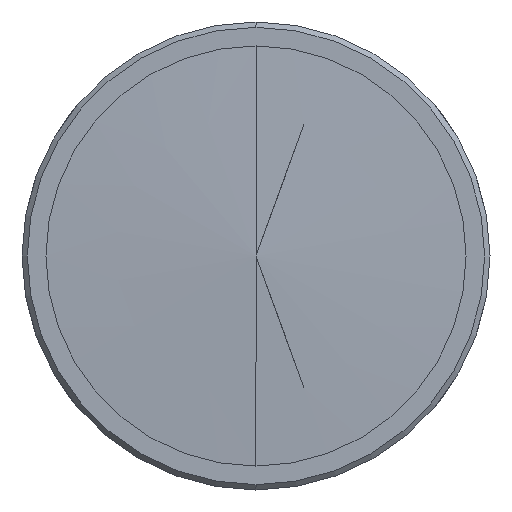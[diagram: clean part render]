
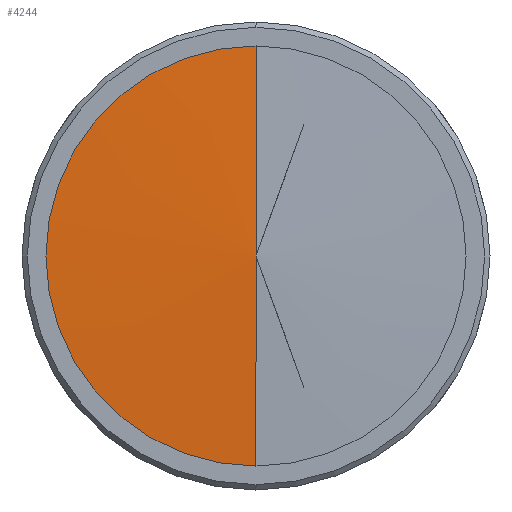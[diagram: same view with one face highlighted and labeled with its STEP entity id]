
A CAD part, left-side view. The second image highlights one B-rep face of the part: STEP entity #4244.
In plain terms, the highlighted conical face has half-angle 87.554 degrees and reference radius 20.853 mm.
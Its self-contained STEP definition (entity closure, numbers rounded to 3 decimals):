
#606 = CARTESIAN_POINT ( 'NONE',  ( 0.891, 0., -20.853 ) ) ;
#899 = CARTESIAN_POINT ( 'NONE',  ( 0.844, 0., -19.75 ) ) ;
#2204 = ORIENTED_EDGE ( 'NONE', *, *, #4152, .F. ) ;
#2458 = VERTEX_POINT ( 'NONE', #899 ) ;
#2616 = AXIS2_PLACEMENT_3D ( 'NONE', #7040, #5387, #2655 ) ;
#2655 = DIRECTION ( 'NONE',  ( 0., 0., -1. ) ) ;
#2905 = CIRCLE ( 'NONE', #2616, 19.75 ) ;
#2960 = EDGE_CURVE ( 'NONE', #3849, #5359, #5803, .T. ) ;
#3116 = CARTESIAN_POINT ( 'NONE',  ( 0.891, 0., 20.853 ) ) ;
#3694 = CARTESIAN_POINT ( 'NONE',  ( 0.844, 0., 19.75 ) ) ;
#3849 = VERTEX_POINT ( 'NONE', #4660 ) ;
#3850 = EDGE_CURVE ( 'NONE', #3849, #2458, #6389, .T. ) ;
#4152 = EDGE_CURVE ( 'NONE', #2458, #5359, #2905, .T. ) ;
#4244 = ADVANCED_FACE ( 'NONE', ( #6128 ), #5272, .T. ) ;
#4562 = EDGE_LOOP ( 'NONE', ( #5860, #6092, #2204 ) ) ;
#4660 = CARTESIAN_POINT ( 'NONE',  ( 0., 0., 0. ) ) ;
#4778 = DIRECTION ( 'NONE',  ( 0.043, 0., -0.999 ) ) ;
#5092 = AXIS2_PLACEMENT_3D ( 'NONE', #6613, #5529, #6633 ) ;
#5272 = CONICAL_SURFACE ( 'NONE', #5092, 20.853, 1.528 ) ;
#5359 = VERTEX_POINT ( 'NONE', #3694 ) ;
#5387 = DIRECTION ( 'NONE',  ( 1., 0., 0. ) ) ;
#5529 = DIRECTION ( 'NONE',  ( 1., 0., 0. ) ) ;
#5718 = VECTOR ( 'NONE', #6891, 1000. ) ;
#5803 = LINE ( 'NONE', #3116, #5718 ) ;
#5860 = ORIENTED_EDGE ( 'NONE', *, *, #3850, .F. ) ;
#5886 = VECTOR ( 'NONE', #4778, 1000. ) ;
#6092 = ORIENTED_EDGE ( 'NONE', *, *, #2960, .T. ) ;
#6128 = FACE_OUTER_BOUND ( 'NONE', #4562, .T. ) ;
#6389 = LINE ( 'NONE', #606, #5886 ) ;
#6613 = CARTESIAN_POINT ( 'NONE',  ( 0.891, 0., 0. ) ) ;
#6633 = DIRECTION ( 'NONE',  ( 0., 0., -1. ) ) ;
#6891 = DIRECTION ( 'NONE',  ( 0.043, 0., 0.999 ) ) ;
#7040 = CARTESIAN_POINT ( 'NONE',  ( 0.844, 0., 0. ) ) ;
